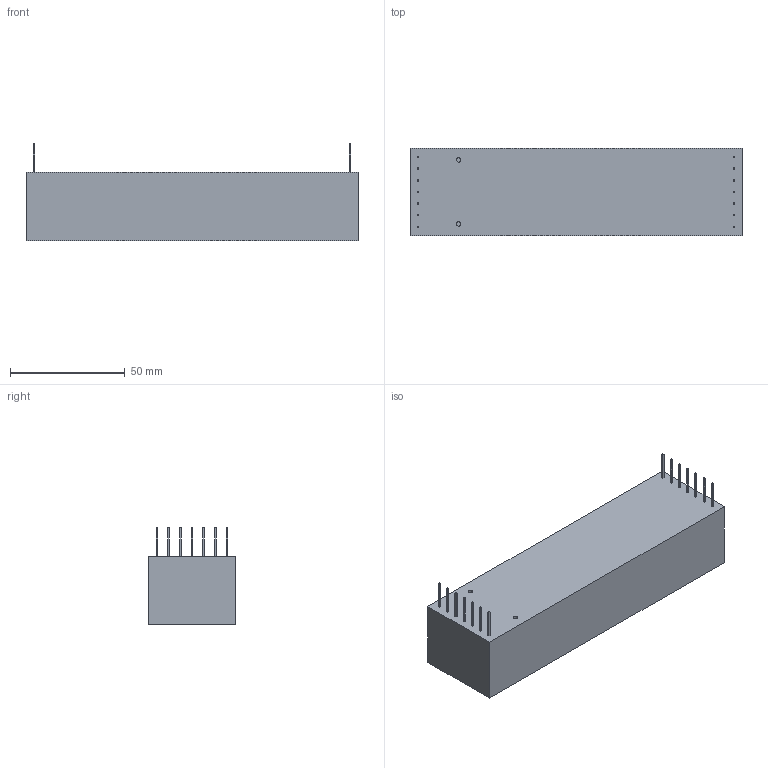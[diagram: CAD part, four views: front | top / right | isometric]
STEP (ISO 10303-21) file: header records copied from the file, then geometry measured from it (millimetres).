
FILE_DESCRIPTION((''),'2;1');
FILE_NAME('OL-033_revH_15FL_gen-stp-file.stp','2011-06-06T14:38:51',(''),(''),'Mechanical Desktop 2007','Mechanical Desktop 2007',', , ');
FILE_SCHEMA(('CONFIG_CONTROL_DESIGN'));
Length unit declared in the file: inch
Products named in the file (3): OL-033_REVH_15FL_GEN-STP-FILE; OL-033; 4
Assembly tree (3 placements, depth 2):
  OL-033_REVH_15FL_GEN-STP-FILE
    OL-033
    4  x2
Bounding box: 144.78 x 38.1 x 42.55 mm (x, y, z)
Volume: 164601.5 mm3; surface area: 22602.3 mm2
Topology: 1 solids, 1 shells, 138 faces, 325 edges, 222 vertices
Faces by surface type: plane 134, cylinder 4
Entity records: 4015 total; most frequent: CARTESIAN_POINT 832, ORIENTED_EDGE 608, DIRECTION 600, EDGE_CURVE 304, VECTOR 296, LINE 296, VERTEX_POINT 184, EDGE_LOOP 154
